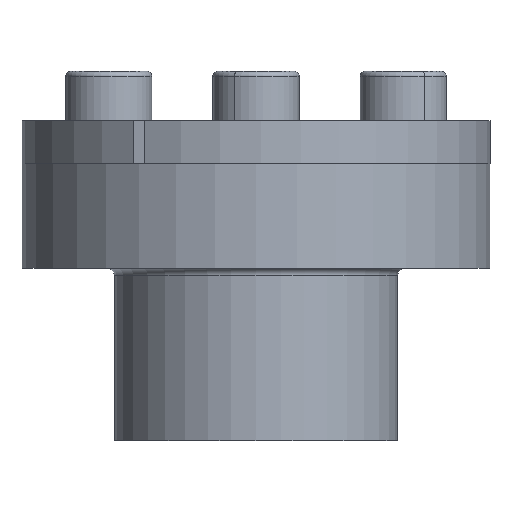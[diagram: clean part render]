
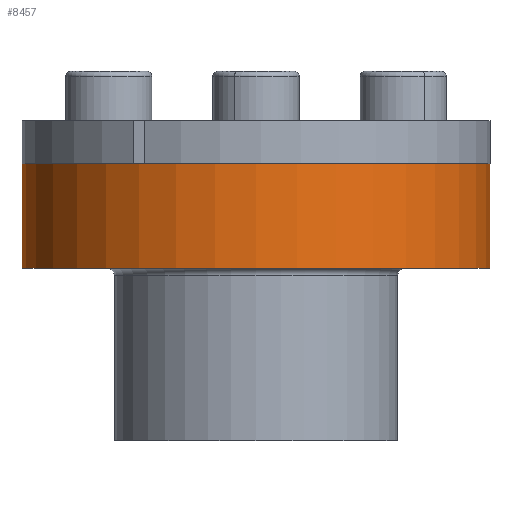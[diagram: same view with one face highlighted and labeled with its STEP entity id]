
A CAD part, front view. The second image highlights one B-rep face of the part: STEP entity #8457.
In plain terms, the highlighted cylindrical face has radius 19 mm (diameter 38 mm), a partial arc.
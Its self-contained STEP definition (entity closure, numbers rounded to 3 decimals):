
#184 = ORIENTED_EDGE ( 'NONE', *, *, #3762, .T. ) ;
#237 = LINE ( 'NONE', #2695, #10177 ) ;
#416 = DIRECTION ( 'NONE',  ( 1., 0., 0. ) ) ;
#932 = DIRECTION ( 'NONE',  ( 0., 0., 1. ) ) ;
#1346 = CARTESIAN_POINT ( 'NONE',  ( -19., 0., 2.983 ) ) ;
#1390 = AXIS2_PLACEMENT_3D ( 'NONE', #9828, #5127, #416 ) ;
#2437 = ORIENTED_EDGE ( 'NONE', *, *, #4382, .F. ) ;
#2695 = CARTESIAN_POINT ( 'NONE',  ( 19., 0., 2.983 ) ) ;
#3083 = AXIS2_PLACEMENT_3D ( 'NONE', #5629, #932, #6403 ) ;
#3298 = VERTEX_POINT ( 'NONE', #6879 ) ;
#3519 = DIRECTION ( 'NONE',  ( 0., 0., -1. ) ) ;
#3560 = ORIENTED_EDGE ( 'NONE', *, *, #3824, .T. ) ;
#3762 = EDGE_CURVE ( 'NONE', #7454, #5362, #6462, .T. ) ;
#3824 = EDGE_CURVE ( 'NONE', #5498, #7454, #8676, .T. ) ;
#4354 = DIRECTION ( 'NONE',  ( -1., 0., 0. ) ) ;
#4382 = EDGE_CURVE ( 'NONE', #3298, #5362, #237, .T. ) ;
#5091 = DIRECTION ( 'NONE',  ( 0., 0., -1. ) ) ;
#5126 = CARTESIAN_POINT ( 'NONE',  ( -19., 0., 2.983 ) ) ;
#5127 = DIRECTION ( 'NONE',  ( 0., 0., 1. ) ) ;
#5362 = VERTEX_POINT ( 'NONE', #8944 ) ;
#5498 = VERTEX_POINT ( 'NONE', #5126 ) ;
#5629 = CARTESIAN_POINT ( 'NONE',  ( 0., 0., 2.983 ) ) ;
#6371 = CARTESIAN_POINT ( 'NONE',  ( -19., 0., -5.517 ) ) ;
#6403 = DIRECTION ( 'NONE',  ( 1., 0., 0. ) ) ;
#6462 = CIRCLE ( 'NONE', #1390, 19. ) ;
#6579 = VECTOR ( 'NONE', #8396, 1000. ) ;
#6719 = AXIS2_PLACEMENT_3D ( 'NONE', #9039, #5091, #4354 ) ;
#6879 = CARTESIAN_POINT ( 'NONE',  ( 19., 0., 2.983 ) ) ;
#7454 = VERTEX_POINT ( 'NONE', #6371 ) ;
#7828 = CIRCLE ( 'NONE', #3083, 19. ) ;
#8396 = DIRECTION ( 'NONE',  ( 0., 0., -1. ) ) ;
#8457 = ADVANCED_FACE ( 'NONE', ( #9462 ), #8486, .T. ) ;
#8486 = CYLINDRICAL_SURFACE ( 'NONE', #6719, 19. ) ;
#8676 = LINE ( 'NONE', #1346, #6579 ) ;
#8944 = CARTESIAN_POINT ( 'NONE',  ( 19., 0., -5.517 ) ) ;
#9039 = CARTESIAN_POINT ( 'NONE',  ( 0., 0., 2.983 ) ) ;
#9375 = EDGE_CURVE ( 'NONE', #5498, #3298, #7828, .T. ) ;
#9462 = FACE_OUTER_BOUND ( 'NONE', #10081, .T. ) ;
#9507 = ORIENTED_EDGE ( 'NONE', *, *, #9375, .F. ) ;
#9828 = CARTESIAN_POINT ( 'NONE',  ( 0., 0., -5.517 ) ) ;
#10081 = EDGE_LOOP ( 'NONE', ( #2437, #9507, #3560, #184 ) ) ;
#10177 = VECTOR ( 'NONE', #3519, 1000. ) ;
